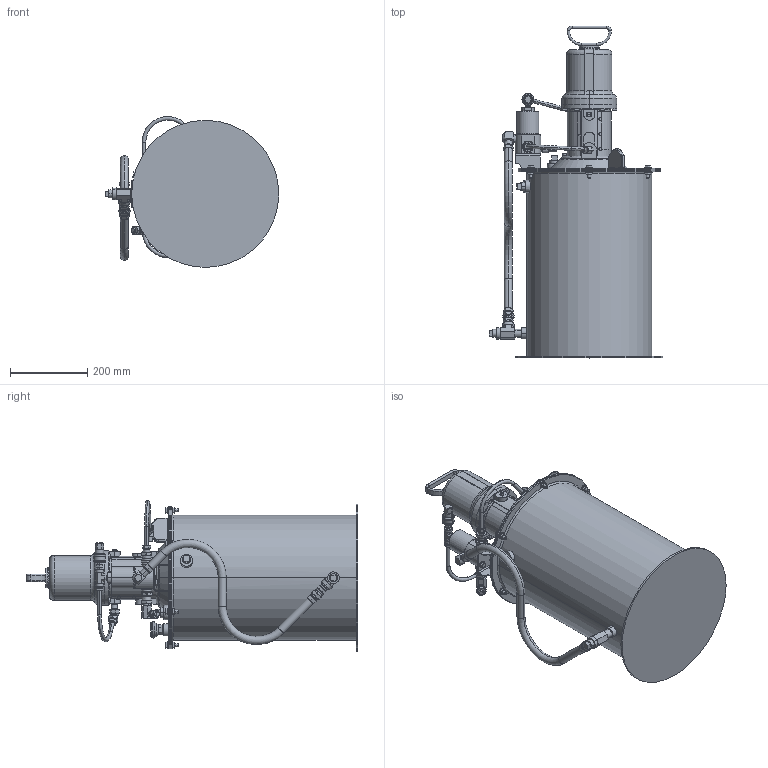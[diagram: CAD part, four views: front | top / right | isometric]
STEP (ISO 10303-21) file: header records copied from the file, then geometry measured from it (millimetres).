
FILE_DESCRIPTION((''),'2;1');
FILE_NAME('25D096-EN-C_PRT','2019-12-31T19:53:07',('qusrh3'),(''),'CREO PARAMETRIC BY PTC INC, 2019030','CREO PARAMETRIC BY PTC INC, 2019030','');
FILE_SCHEMA(('CONFIG_CONTROL_DESIGN'));
Length unit declared in the file: inch
Products named in the file (1): 25D096-EN-C_PRT
Bounding box: 449.66 x 859.52 x 390.52 mm (x, y, z)
Surface area: 1727564.4 mm2 (no closed solid volume)
Topology: 0 solids, 144 shells, 1262 faces, 3732 edges, 2570 vertices
Faces by surface type: plane 566, cone 361, cylinder 254, torus 70, bspline 6, sphere 5
Entity records: 45134 total; most frequent: CARTESIAN_POINT 13791, ORIENTED_EDGE 6166, DIRECTION 6116, EDGE_CURVE 3729, VERTEX_POINT 2570, AXIS2_PLACEMENT_3D 2247, VECTOR 1622, LINE 1622
